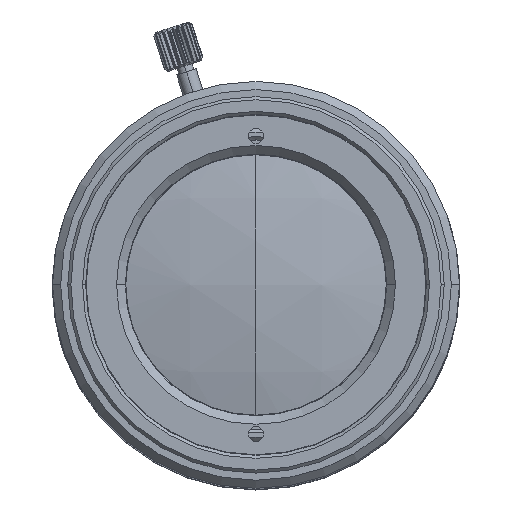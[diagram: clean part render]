
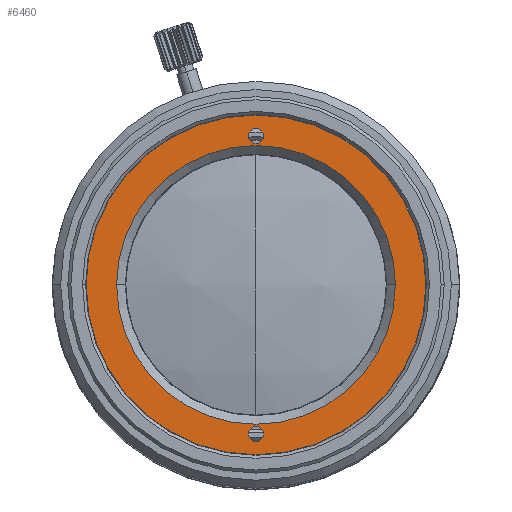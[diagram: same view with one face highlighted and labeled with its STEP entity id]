
A CAD part, top view. The second image highlights one B-rep face of the part: STEP entity #6460.
In plain terms, the highlighted planar face has unit normal (0, 0, 1).
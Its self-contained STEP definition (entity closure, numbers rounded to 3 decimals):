
#233 = DIRECTION ( 'NONE',  ( -1., 0., 0. ) ) ;
#1364 = AXIS2_PLACEMENT_3D ( 'NONE', #19278, #15571, #21559 ) ;
#1673 = CARTESIAN_POINT ( 'NONE',  ( 0., 14.65, 59.25 ) ) ;
#1996 = AXIS2_PLACEMENT_3D ( 'NONE', #4297, #19471, #233 ) ;
#2193 = CARTESIAN_POINT ( 'NONE',  ( 0., 0., 59.25 ) ) ;
#2554 = DIRECTION ( 'NONE',  ( -1., 0., 0. ) ) ;
#2844 = FACE_BOUND ( 'NONE', #16236, .T. ) ;
#2932 = EDGE_LOOP ( 'NONE', ( #22088, #8126 ) ) ;
#2937 = AXIS2_PLACEMENT_3D ( 'NONE', #8516, #20359, #12594 ) ;
#3457 = DIRECTION ( 'NONE',  ( 1., 0., 0. ) ) ;
#4297 = CARTESIAN_POINT ( 'NONE',  ( 0., -14.65, 59.25 ) ) ;
#4374 = CARTESIAN_POINT ( 'NONE',  ( 16.7, 0., 59.25 ) ) ;
#4481 = ORIENTED_EDGE ( 'NONE', *, *, #5172, .F. ) ;
#4752 = VERTEX_POINT ( 'NONE', #10133 ) ;
#4844 = CARTESIAN_POINT ( 'NONE',  ( -13.7, 0., 59.25 ) ) ;
#5172 = EDGE_CURVE ( 'NONE', #4752, #19902, #13191, .T. ) ;
#5726 = CARTESIAN_POINT ( 'NONE',  ( -0.75, -14.65, 59.25 ) ) ;
#5885 = ORIENTED_EDGE ( 'NONE', *, *, #21426, .F. ) ;
#6205 = FACE_OUTER_BOUND ( 'NONE', #2932, .T. ) ;
#6460 = ADVANCED_FACE ( 'NONE', ( #6205, #10384, #12070, #2844 ), #13983, .F. ) ;
#6603 = EDGE_CURVE ( 'NONE', #18555, #22090, #7886, .T. ) ;
#7316 = CARTESIAN_POINT ( 'NONE',  ( 0., -14.65, 59.25 ) ) ;
#7702 = CARTESIAN_POINT ( 'NONE',  ( 0., 0., 59.25 ) ) ;
#7847 = CIRCLE ( 'NONE', #2937, 13.7 ) ;
#7886 = CIRCLE ( 'NONE', #10750, 0.75 ) ;
#8126 = ORIENTED_EDGE ( 'NONE', *, *, #21203, .T. ) ;
#8290 = CARTESIAN_POINT ( 'NONE',  ( -16.7, 0., 59.25 ) ) ;
#8301 = AXIS2_PLACEMENT_3D ( 'NONE', #23645, #21746, #14230 ) ;
#8503 = ORIENTED_EDGE ( 'NONE', *, *, #19682, .F. ) ;
#8516 = CARTESIAN_POINT ( 'NONE',  ( 0., 0., 59.25 ) ) ;
#10133 = CARTESIAN_POINT ( 'NONE',  ( 13.7, 0., 59.25 ) ) ;
#10384 = FACE_BOUND ( 'NONE', #17253, .T. ) ;
#10750 = AXIS2_PLACEMENT_3D ( 'NONE', #1673, #11374, #3457 ) ;
#11374 = DIRECTION ( 'NONE',  ( 0., 0., 1. ) ) ;
#12070 = FACE_BOUND ( 'NONE', #24671, .T. ) ;
#12081 = ORIENTED_EDGE ( 'NONE', *, *, #6603, .F. ) ;
#12264 = DIRECTION ( 'NONE',  ( 0., 0., 1. ) ) ;
#12376 = CIRCLE ( 'NONE', #15647, 16.7 ) ;
#12594 = DIRECTION ( 'NONE',  ( 1., 0., 0. ) ) ;
#13191 = CIRCLE ( 'NONE', #23744, 13.7 ) ;
#13192 = DIRECTION ( 'NONE',  ( -1., 0., 0. ) ) ;
#13707 = DIRECTION ( 'NONE',  ( -1., 0., 0. ) ) ;
#13983 = PLANE ( 'NONE',  #8301 ) ;
#14026 = AXIS2_PLACEMENT_3D ( 'NONE', #7316, #22232, #13192 ) ;
#14230 = DIRECTION ( 'NONE',  ( -1., 0., 0. ) ) ;
#14496 = ORIENTED_EDGE ( 'NONE', *, *, #19215, .F. ) ;
#15571 = DIRECTION ( 'NONE',  ( 0., 0., 1. ) ) ;
#15647 = AXIS2_PLACEMENT_3D ( 'NONE', #24343, #12264, #2554 ) ;
#15846 = CIRCLE ( 'NONE', #1996, 0.75 ) ;
#15971 = DIRECTION ( 'NONE',  ( 1., 0., 0. ) ) ;
#16236 = EDGE_LOOP ( 'NONE', ( #5885, #14496 ) ) ;
#16605 = VERTEX_POINT ( 'NONE', #4374 ) ;
#16811 = AXIS2_PLACEMENT_3D ( 'NONE', #7702, #17914, #13707 ) ;
#17238 = CIRCLE ( 'NONE', #1364, 0.75 ) ;
#17253 = EDGE_LOOP ( 'NONE', ( #12081, #8503 ) ) ;
#17766 = DIRECTION ( 'NONE',  ( 0., 0., 1. ) ) ;
#17914 = DIRECTION ( 'NONE',  ( 0., 0., 1. ) ) ;
#18449 = VERTEX_POINT ( 'NONE', #8290 ) ;
#18555 = VERTEX_POINT ( 'NONE', #23363 ) ;
#19215 = EDGE_CURVE ( 'NONE', #20680, #24968, #15846, .T. ) ;
#19278 = CARTESIAN_POINT ( 'NONE',  ( 0., 14.65, 59.25 ) ) ;
#19471 = DIRECTION ( 'NONE',  ( 0., 0., 1. ) ) ;
#19682 = EDGE_CURVE ( 'NONE', #22090, #18555, #17238, .T. ) ;
#19730 = CIRCLE ( 'NONE', #14026, 0.75 ) ;
#19902 = VERTEX_POINT ( 'NONE', #4844 ) ;
#20359 = DIRECTION ( 'NONE',  ( 0., 0., 1. ) ) ;
#20680 = VERTEX_POINT ( 'NONE', #21802 ) ;
#20863 = CIRCLE ( 'NONE', #16811, 16.7 ) ;
#21203 = EDGE_CURVE ( 'NONE', #16605, #18449, #12376, .T. ) ;
#21426 = EDGE_CURVE ( 'NONE', #24968, #20680, #19730, .T. ) ;
#21559 = DIRECTION ( 'NONE',  ( 1., 0., 0. ) ) ;
#21645 = CARTESIAN_POINT ( 'NONE',  ( -0.75, 14.65, 59.25 ) ) ;
#21746 = DIRECTION ( 'NONE',  ( 0., 0., -1. ) ) ;
#21802 = CARTESIAN_POINT ( 'NONE',  ( 0.75, -14.65, 59.25 ) ) ;
#22088 = ORIENTED_EDGE ( 'NONE', *, *, #24118, .T. ) ;
#22090 = VERTEX_POINT ( 'NONE', #21645 ) ;
#22232 = DIRECTION ( 'NONE',  ( 0., 0., 1. ) ) ;
#23363 = CARTESIAN_POINT ( 'NONE',  ( 0.75, 14.65, 59.25 ) ) ;
#23645 = CARTESIAN_POINT ( 'NONE',  ( 0., 13.7, 59.25 ) ) ;
#23744 = AXIS2_PLACEMENT_3D ( 'NONE', #2193, #17766, #15971 ) ;
#24118 = EDGE_CURVE ( 'NONE', #18449, #16605, #20863, .T. ) ;
#24343 = CARTESIAN_POINT ( 'NONE',  ( 0., 0., 59.25 ) ) ;
#24362 = ORIENTED_EDGE ( 'NONE', *, *, #25156, .F. ) ;
#24671 = EDGE_LOOP ( 'NONE', ( #4481, #24362 ) ) ;
#24968 = VERTEX_POINT ( 'NONE', #5726 ) ;
#25156 = EDGE_CURVE ( 'NONE', #19902, #4752, #7847, .T. ) ;
